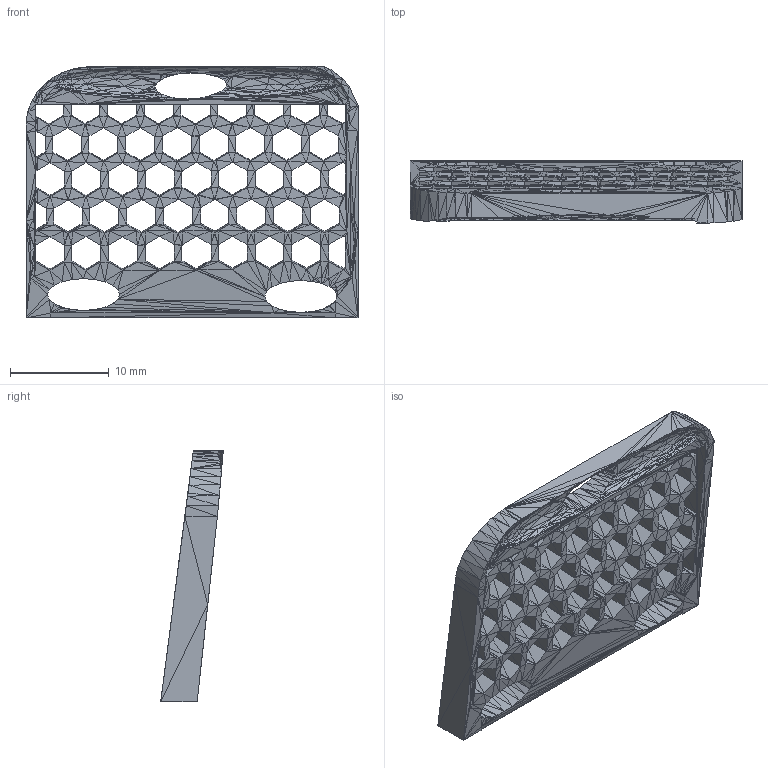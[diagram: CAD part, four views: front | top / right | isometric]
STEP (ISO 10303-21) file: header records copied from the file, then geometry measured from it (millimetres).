
FILE_DESCRIPTION(('FreeCAD Model'),'2;1');
FILE_NAME('Open CASCADE Shape Model','2025-03-06T13:13:37',('Author'),( ''),'Open CASCADE STEP processor 7.8','FreeCAD','Unknown');
FILE_SCHEMA(('AUTOMOTIVE_DESIGN { 1 0 10303 214 1 1 1 1 }'));
Length unit declared in the file: millimetre
Products named in the file (1): FOSSToritisKillFlash002 (Solid)
Bounding box: 33.54 x 6.33 x 25.43 mm (x, y, z)
Surface area: 2833.5 mm2
Topology: 1 solids, 2 shells, 2725 faces, 4086 edges, 1267 vertices
Faces by surface type: plane 2725
Entity records: 52969 total; most frequent: DIRECTION 9538, ORIENTED_EDGE 8175, CARTESIAN_POINT 8079, EDGE_CURVE 4086, LINE 4086, VECTOR 4086, AXIS2_PLACEMENT_3D 2726, ADVANCED_FACE 2725
